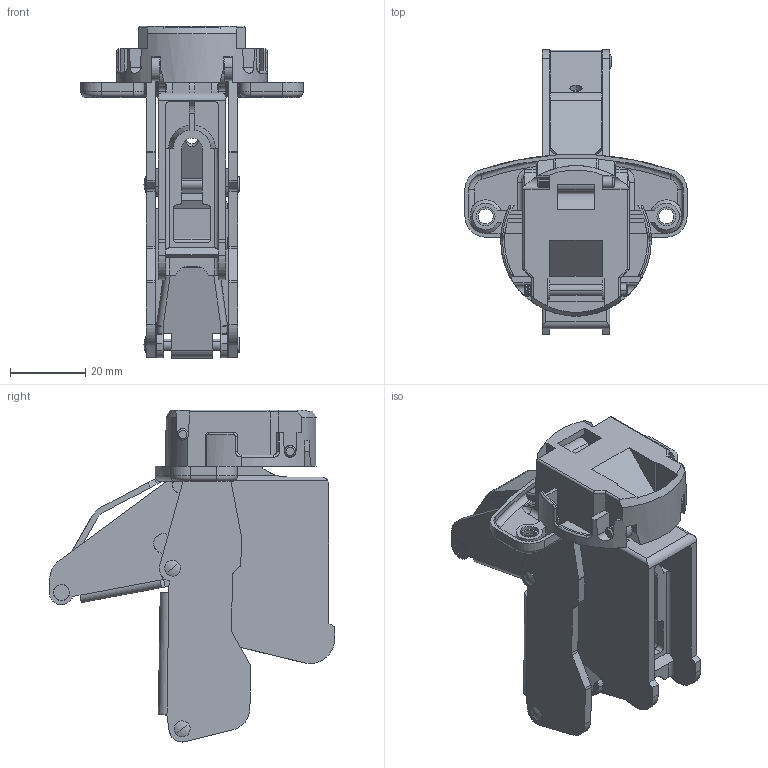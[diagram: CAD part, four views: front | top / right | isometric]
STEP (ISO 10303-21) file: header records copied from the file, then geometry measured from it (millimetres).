
FILE_DESCRIPTION (( 'STEP AP203' ), '1' );
FILE_NAME ('H160_34_0_0.STEP', '2013-05-30T11:54:27', ( '' ), ( '' ), 'SwSTEP 2.0', 'SolidWorks 2012', '' );
FILE_SCHEMA (( 'CONFIG_CONTROL_DESIGN' ));
Length unit declared in the file: millimetre
Products named in the file (8): H160_34_0_0; H160_34_0_000; H160_socket; H160_arm_SJ; H160_arm_SL_23180; H160_arm_GD; H160_arm_CT; H160_body_00
Assembly tree (7 placements, depth 3):
  H160_34_0_0
    H160_34_0_000
      H160_body_00
      H160_arm_CT
      H160_arm_GD
      H160_arm_SL_23180
      H160_arm_SJ
      H160_socket
Bounding box: 59 x 75.71 x 88.16 mm (x, y, z)
Volume: 34311.6 mm3; surface area: 38009.9 mm2
Topology: 6 solids, 10 shells, 1092 faces, 3058 edges, 1956 vertices
Faces by surface type: plane 580, cylinder 391, cone 50, torus 45, bspline 18, sphere 8
Entity records: 36980 total; most frequent: CARTESIAN_POINT 7784, ORIENTED_EDGE 6108, DIRECTION 5900, EDGE_CURVE 3054, AXIS2_PLACEMENT_3D 2009, VERTEX_POINT 1956, VECTOR 1882, LINE 1882
